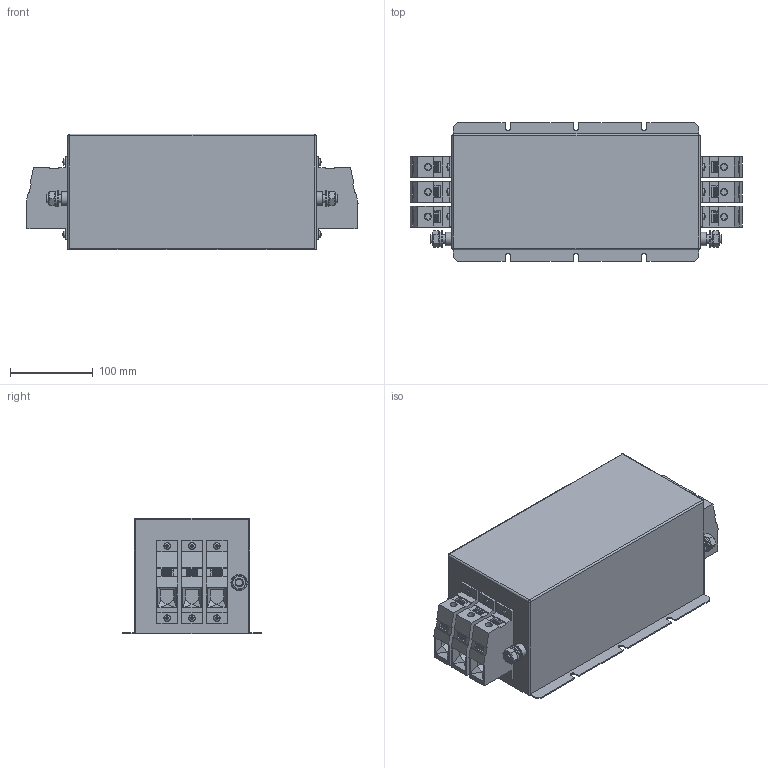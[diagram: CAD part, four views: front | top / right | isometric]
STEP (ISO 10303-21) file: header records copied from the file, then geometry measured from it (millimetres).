
FILE_DESCRIPTION((''),'2;1');
FILE_NAME('P:\Construction\INVENTOR_Projektedaten\HousingDesign\FN3120H-230-40.stp','2013-11-18T16:35:24',('erika.jenzer'),(''),'Autodesk Inventor 2013','Autodesk Inventor 2013','');
FILE_SCHEMA(('AUTOMOTIVE_DESIGN { 1 0 10303 214 1 1 1 1 }'));
Length unit declared in the file: millimetre
Products named in the file (1): FN3120H-230-40
Bounding box: 401.33 x 168 x 140 mm (x, y, z)
Volume: 6032848.9 mm3; surface area: 405814.5 mm2
Topology: 1 solids, 37 shells, 1115 faces, 2877 edges, 1884 vertices
Faces by surface type: plane 770, cone 144, cylinder 137, torus 48, sphere 16
Full cylindrical faces by diameter (mm): 3.5 x6, 4.2 x12, 5 x12, 8.4 x6, 9.188 x2, 10 x6, 10.5 x2, 12.7 x3, 16.5 x2, 20 x2, 21 x3
Entity records: 34717 total; most frequent: CARTESIAN_POINT 7803, ORIENTED_EDGE 5416, DIRECTION 5198, EDGE_CURVE 2708, VECTOR 1824, LINE 1824, VERTEX_POINT 1820, AXIS2_PLACEMENT_3D 1687
